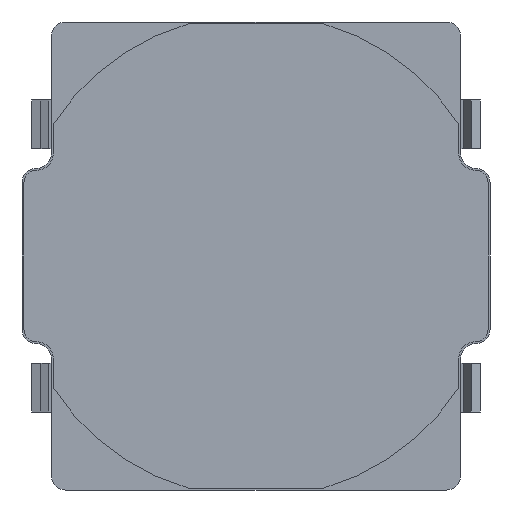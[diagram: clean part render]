
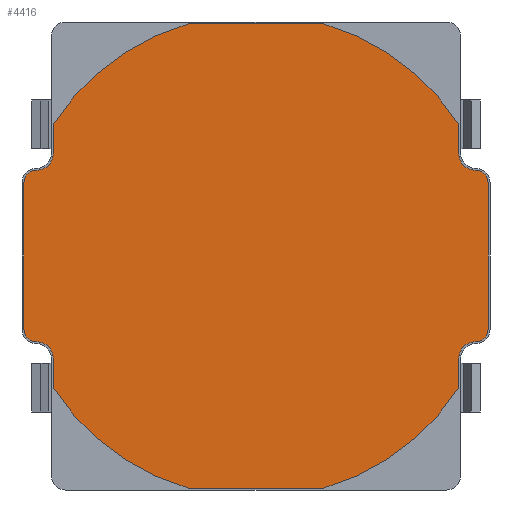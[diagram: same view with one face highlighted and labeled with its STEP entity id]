
A CAD part, front view. The second image highlights one B-rep face of the part: STEP entity #4416.
In plain terms, the highlighted planar face has unit normal (0, -1, 0).
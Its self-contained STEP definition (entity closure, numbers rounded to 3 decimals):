
#3829=CARTESIAN_POINT('',(0.,-0.05,0.));
#3830=DIRECTION('',(0.,1.,0.));
#3831=DIRECTION('',(0.839,0.,-0.545));
#3832=AXIS2_PLACEMENT_3D('',#3829,#3830,#3831);
#3837=DIRECTION('',(-1.,0.,0.));
#3838=VECTOR('',#3837,1.394);
#3839=CARTESIAN_POINT('',(0.697,-0.05,-2.38));
#3840=LINE('',#3839,#3838);
#3844=CARTESIAN_POINT('',(0.,-0.05,0.));
#3845=DIRECTION('',(0.,1.,0.));
#3846=DIRECTION('',(-0.281,0.,-0.96));
#3847=AXIS2_PLACEMENT_3D('',#3844,#3845,#3846);
#3852=DIRECTION('',(0.,0.,1.));
#3853=VECTOR('',#3852,0.301);
#3854=CARTESIAN_POINT('',(-2.08,-0.05,-1.351));
#3855=LINE('',#3854,#3853);
#3859=CARTESIAN_POINT('',(-2.25,-0.05,-1.05));
#3860=DIRECTION('',(0.,-1.,0.));
#3861=DIRECTION('',(1.,0.,0.));
#3862=AXIS2_PLACEMENT_3D('',#3859,#3860,#3861);
#3867=CARTESIAN_POINT('',(-2.25,-0.05,-0.75));
#3868=DIRECTION('',(0.,1.,0.));
#3869=DIRECTION('',(0.,0.,-1.));
#3870=AXIS2_PLACEMENT_3D('',#3867,#3868,#3869);
#3875=DIRECTION('',(0.,0.,1.));
#3876=VECTOR('',#3875,1.5);
#3877=CARTESIAN_POINT('',(-2.38,-0.05,-0.75));
#3878=LINE('',#3877,#3876);
#3882=CARTESIAN_POINT('',(-2.25,-0.05,0.75));
#3883=DIRECTION('',(0.,1.,0.));
#3884=DIRECTION('',(-1.,0.,0.));
#3885=AXIS2_PLACEMENT_3D('',#3882,#3883,#3884);
#3890=CARTESIAN_POINT('',(-2.25,-0.05,1.05));
#3891=DIRECTION('',(0.,-1.,0.));
#3892=DIRECTION('',(0.,0.,-1.));
#3893=AXIS2_PLACEMENT_3D('',#3890,#3891,#3892);
#3898=DIRECTION('',(0.,0.,1.));
#3899=VECTOR('',#3898,0.301);
#3900=CARTESIAN_POINT('',(-2.08,-0.05,1.05));
#3901=LINE('',#3900,#3899);
#3905=CARTESIAN_POINT('',(0.,-0.05,0.));
#3906=DIRECTION('',(0.,1.,0.));
#3907=DIRECTION('',(-0.839,0.,0.545));
#3908=AXIS2_PLACEMENT_3D('',#3905,#3906,#3907);
#3913=DIRECTION('',(1.,0.,0.));
#3914=VECTOR('',#3913,1.394);
#3915=CARTESIAN_POINT('',(-0.697,-0.05,2.38));
#3916=LINE('',#3915,#3914);
#3920=CARTESIAN_POINT('',(0.,-0.05,0.));
#3921=DIRECTION('',(0.,1.,0.));
#3922=DIRECTION('',(0.281,0.,0.96));
#3923=AXIS2_PLACEMENT_3D('',#3920,#3921,#3922);
#3928=DIRECTION('',(0.,0.,-1.));
#3929=VECTOR('',#3928,0.301);
#3930=CARTESIAN_POINT('',(2.08,-0.05,1.351));
#3931=LINE('',#3930,#3929);
#3935=CARTESIAN_POINT('',(2.25,-0.05,1.05));
#3936=DIRECTION('',(0.,-1.,0.));
#3937=DIRECTION('',(-1.,0.,0.));
#3938=AXIS2_PLACEMENT_3D('',#3935,#3936,#3937);
#3943=CARTESIAN_POINT('',(2.25,-0.05,0.75));
#3944=DIRECTION('',(0.,1.,0.));
#3945=DIRECTION('',(0.,0.,1.));
#3946=AXIS2_PLACEMENT_3D('',#3943,#3944,#3945);
#3951=DIRECTION('',(0.,0.,-1.));
#3952=VECTOR('',#3951,1.5);
#3953=CARTESIAN_POINT('',(2.38,-0.05,0.75));
#3954=LINE('',#3953,#3952);
#3958=CARTESIAN_POINT('',(2.25,-0.05,-0.75));
#3959=DIRECTION('',(0.,1.,0.));
#3960=DIRECTION('',(1.,0.,0.));
#3961=AXIS2_PLACEMENT_3D('',#3958,#3959,#3960);
#3966=CARTESIAN_POINT('',(2.25,-0.05,-1.05));
#3967=DIRECTION('',(0.,-1.,0.));
#3968=DIRECTION('',(0.,0.,1.));
#3969=AXIS2_PLACEMENT_3D('',#3966,#3967,#3968);
#3974=DIRECTION('',(0.,0.,-1.));
#3975=VECTOR('',#3974,0.301);
#3976=CARTESIAN_POINT('',(2.08,-0.05,-1.05));
#3977=LINE('',#3976,#3975);
#4021=CARTESIAN_POINT('',(2.08,-0.05,-1.351));
#4022=CARTESIAN_POINT('',(0.697,-0.05,-2.38));
#4023=VERTEX_POINT('',#4021);
#4024=VERTEX_POINT('',#4022);
#4025=CARTESIAN_POINT('',(-0.697,-0.05,-2.38));
#4026=VERTEX_POINT('',#4025);
#4027=CARTESIAN_POINT('',(-2.08,-0.05,-1.351));
#4028=VERTEX_POINT('',#4027);
#4029=CARTESIAN_POINT('',(-2.08,-0.05,-1.05));
#4030=VERTEX_POINT('',#4029);
#4031=CARTESIAN_POINT('',(-2.25,-0.05,-0.88));
#4032=VERTEX_POINT('',#4031);
#4033=CARTESIAN_POINT('',(-2.38,-0.05,-0.75));
#4034=VERTEX_POINT('',#4033);
#4035=CARTESIAN_POINT('',(-2.38,-0.05,0.75));
#4036=VERTEX_POINT('',#4035);
#4037=CARTESIAN_POINT('',(-2.25,-0.05,0.88));
#4038=VERTEX_POINT('',#4037);
#4039=CARTESIAN_POINT('',(-2.08,-0.05,1.05));
#4040=VERTEX_POINT('',#4039);
#4041=CARTESIAN_POINT('',(-2.08,-0.05,1.351));
#4042=VERTEX_POINT('',#4041);
#4043=CARTESIAN_POINT('',(-0.697,-0.05,2.38));
#4044=VERTEX_POINT('',#4043);
#4045=CARTESIAN_POINT('',(0.697,-0.05,2.38));
#4046=VERTEX_POINT('',#4045);
#4047=CARTESIAN_POINT('',(2.08,-0.05,1.351));
#4048=VERTEX_POINT('',#4047);
#4049=CARTESIAN_POINT('',(2.08,-0.05,1.05));
#4050=VERTEX_POINT('',#4049);
#4051=CARTESIAN_POINT('',(2.25,-0.05,0.88));
#4052=VERTEX_POINT('',#4051);
#4053=CARTESIAN_POINT('',(2.38,-0.05,0.75));
#4054=VERTEX_POINT('',#4053);
#4055=CARTESIAN_POINT('',(2.38,-0.05,-0.75));
#4056=VERTEX_POINT('',#4055);
#4057=CARTESIAN_POINT('',(2.25,-0.05,-0.88));
#4058=VERTEX_POINT('',#4057);
#4059=CARTESIAN_POINT('',(2.08,-0.05,-1.05));
#4060=VERTEX_POINT('',#4059);
#4389=CARTESIAN_POINT('',(0.,-0.05,0.));
#4390=DIRECTION('',(0.,1.,0.));
#4391=DIRECTION('',(0.,0.,-1.));
#4392=AXIS2_PLACEMENT_3D('',#4389,#4390,#4391);
#4393=PLANE('',#4392);
#4394=ORIENTED_EDGE('',*,*,#4117,.T.);
#4395=ORIENTED_EDGE('',*,*,#4132,.T.);
#4396=ORIENTED_EDGE('',*,*,#4146,.T.);
#4397=ORIENTED_EDGE('',*,*,#4160,.T.);
#4398=ORIENTED_EDGE('',*,*,#4174,.T.);
#4399=ORIENTED_EDGE('',*,*,#4188,.T.);
#4400=ORIENTED_EDGE('',*,*,#4202,.T.);
#4401=ORIENTED_EDGE('',*,*,#4216,.T.);
#4402=ORIENTED_EDGE('',*,*,#4230,.T.);
#4403=ORIENTED_EDGE('',*,*,#4244,.T.);
#4404=ORIENTED_EDGE('',*,*,#4258,.T.);
#4405=ORIENTED_EDGE('',*,*,#4272,.T.);
#4406=ORIENTED_EDGE('',*,*,#4286,.T.);
#4407=ORIENTED_EDGE('',*,*,#4300,.T.);
#4408=ORIENTED_EDGE('',*,*,#4314,.T.);
#4409=ORIENTED_EDGE('',*,*,#4328,.T.);
#4410=ORIENTED_EDGE('',*,*,#4342,.T.);
#4411=ORIENTED_EDGE('',*,*,#4356,.T.);
#4412=ORIENTED_EDGE('',*,*,#4370,.T.);
#4413=ORIENTED_EDGE('',*,*,#4383,.T.);
#4414=EDGE_LOOP('',(#4394,#4395,#4396,#4397,#4398,#4399,#4400,#4401,#4402,#4403,
#4404,#4405,#4406,#4407,#4408,#4409,#4410,#4411,#4412,#4413));
#4415=FACE_OUTER_BOUND('',#4414,.F.);
#3833=CIRCLE('',#3832,2.48);
#3848=CIRCLE('',#3847,2.48);
#3863=CIRCLE('',#3862,0.17);
#3871=CIRCLE('',#3870,0.13);
#3886=CIRCLE('',#3885,0.13);
#3894=CIRCLE('',#3893,0.17);
#3909=CIRCLE('',#3908,2.48);
#3924=CIRCLE('',#3923,2.48);
#3939=CIRCLE('',#3938,0.17);
#3947=CIRCLE('',#3946,0.13);
#3962=CIRCLE('',#3961,0.13);
#3970=CIRCLE('',#3969,0.17);
#4117=EDGE_CURVE('',#4023,#4024,#3833,.T.);
#4132=EDGE_CURVE('',#4024,#4026,#3840,.T.);
#4146=EDGE_CURVE('',#4026,#4028,#3848,.T.);
#4160=EDGE_CURVE('',#4028,#4030,#3855,.T.);
#4174=EDGE_CURVE('',#4030,#4032,#3863,.T.);
#4188=EDGE_CURVE('',#4032,#4034,#3871,.T.);
#4202=EDGE_CURVE('',#4034,#4036,#3878,.T.);
#4216=EDGE_CURVE('',#4036,#4038,#3886,.T.);
#4230=EDGE_CURVE('',#4038,#4040,#3894,.T.);
#4244=EDGE_CURVE('',#4040,#4042,#3901,.T.);
#4258=EDGE_CURVE('',#4042,#4044,#3909,.T.);
#4272=EDGE_CURVE('',#4044,#4046,#3916,.T.);
#4286=EDGE_CURVE('',#4046,#4048,#3924,.T.);
#4300=EDGE_CURVE('',#4048,#4050,#3931,.T.);
#4314=EDGE_CURVE('',#4050,#4052,#3939,.T.);
#4328=EDGE_CURVE('',#4052,#4054,#3947,.T.);
#4342=EDGE_CURVE('',#4054,#4056,#3954,.T.);
#4356=EDGE_CURVE('',#4056,#4058,#3962,.T.);
#4370=EDGE_CURVE('',#4058,#4060,#3970,.T.);
#4383=EDGE_CURVE('',#4060,#4023,#3977,.T.);
#4416=ADVANCED_FACE('',(#4415),#4393,.F.);
